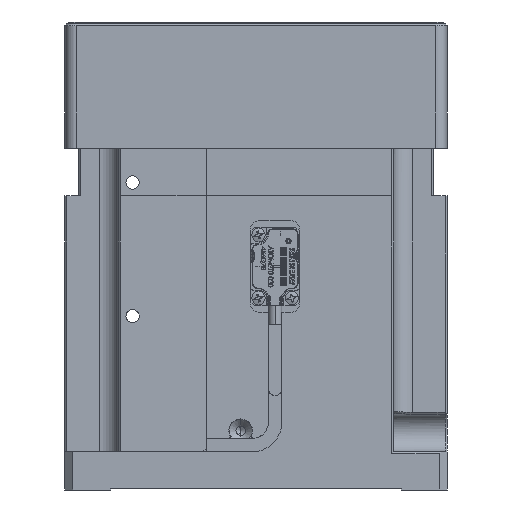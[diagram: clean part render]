
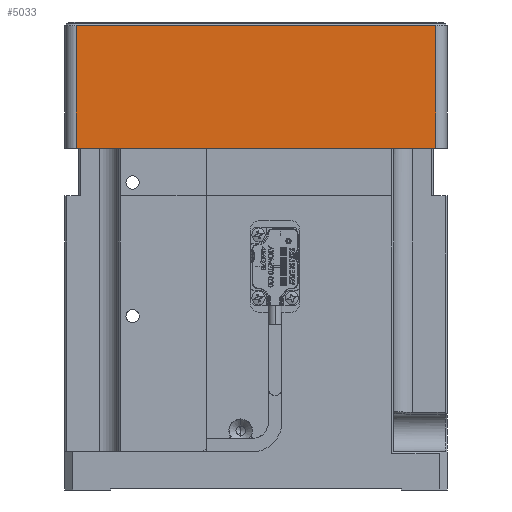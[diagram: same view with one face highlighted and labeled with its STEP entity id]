
A CAD part, left-side view. The second image highlights one B-rep face of the part: STEP entity #5033.
In plain terms, the highlighted planar face has unit normal (-1, 0, 0).
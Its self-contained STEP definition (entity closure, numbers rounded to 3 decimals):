
#419 = CARTESIAN_POINT ( 'NONE',  ( -50., 50., 111.5 ) ) ;
#4368 = EDGE_CURVE ( 'NONE', #59463, #21439, #16316, .T. ) ;
#4717 = ORIENTED_EDGE ( 'NONE', *, *, #4368, .T. ) ;
#4780 = LINE ( 'NONE', #9686, #48494 ) ;
#5033 = ADVANCED_FACE ( 'NONE', ( #51683 ), #36686, .T. ) ;
#5742 = AXIS2_PLACEMENT_3D ( 'NONE', #14785, #19675, #30789 ) ;
#6406 = CARTESIAN_POINT ( 'NONE',  ( -50., -47., 79.5 ) ) ;
#6557 = EDGE_LOOP ( 'NONE', ( #44543, #58207, #59788, #4717 ) ) ;
#8080 = CARTESIAN_POINT ( 'NONE',  ( -50., -47., 111.5 ) ) ;
#9373 = VERTEX_POINT ( 'NONE', #8080 ) ;
#9686 = CARTESIAN_POINT ( 'NONE',  ( -50., -47., 79.5 ) ) ;
#10363 = DIRECTION ( 'NONE',  ( 0., 0., 1. ) ) ;
#14785 = CARTESIAN_POINT ( 'NONE',  ( -50., 50., 79.5 ) ) ;
#14825 = CARTESIAN_POINT ( 'NONE',  ( -50., 47., 111.5 ) ) ;
#15402 = DIRECTION ( 'NONE',  ( 0., 0., -1. ) ) ;
#16316 = LINE ( 'NONE', #37525, #41191 ) ;
#17410 = EDGE_CURVE ( 'NONE', #21439, #9373, #4780, .T. ) ;
#19675 = DIRECTION ( 'NONE',  ( -1., 0., 0. ) ) ;
#20605 = LINE ( 'NONE', #63122, #37082 ) ;
#21439 = VERTEX_POINT ( 'NONE', #6406 ) ;
#30789 = DIRECTION ( 'NONE',  ( 0., 0., 1. ) ) ;
#33019 = DIRECTION ( 'NONE',  ( 0., -1., 0. ) ) ;
#33636 = CARTESIAN_POINT ( 'NONE',  ( -50., 47., 79.5 ) ) ;
#36127 = EDGE_CURVE ( 'NONE', #9373, #61092, #44263, .T. ) ;
#36686 = PLANE ( 'NONE',  #5742 ) ;
#37082 = VECTOR ( 'NONE', #15402, 1000. ) ;
#37525 = CARTESIAN_POINT ( 'NONE',  ( -50., 0., 79.5 ) ) ;
#41191 = VECTOR ( 'NONE', #33019, 1000. ) ;
#43323 = EDGE_CURVE ( 'NONE', #61092, #59463, #20605, .T. ) ;
#44263 = LINE ( 'NONE', #419, #47726 ) ;
#44543 = ORIENTED_EDGE ( 'NONE', *, *, #17410, .T. ) ;
#47726 = VECTOR ( 'NONE', #53366, 1000. ) ;
#48494 = VECTOR ( 'NONE', #10363, 1000. ) ;
#51683 = FACE_OUTER_BOUND ( 'NONE', #6557, .T. ) ;
#53366 = DIRECTION ( 'NONE',  ( 0., 1., 0. ) ) ;
#58207 = ORIENTED_EDGE ( 'NONE', *, *, #36127, .T. ) ;
#59463 = VERTEX_POINT ( 'NONE', #33636 ) ;
#59788 = ORIENTED_EDGE ( 'NONE', *, *, #43323, .T. ) ;
#61092 = VERTEX_POINT ( 'NONE', #14825 ) ;
#63122 = CARTESIAN_POINT ( 'NONE',  ( -50., 47., 79.5 ) ) ;
